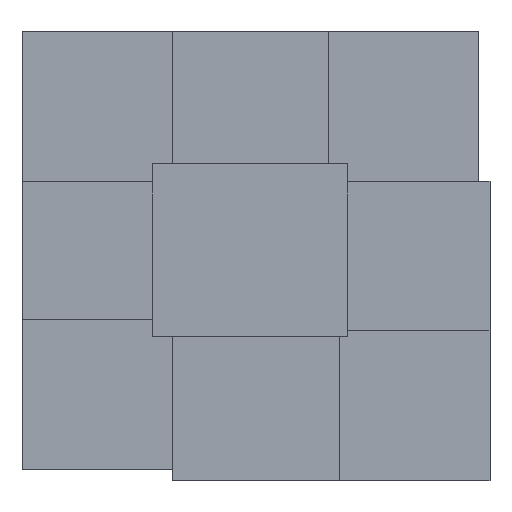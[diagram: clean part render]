
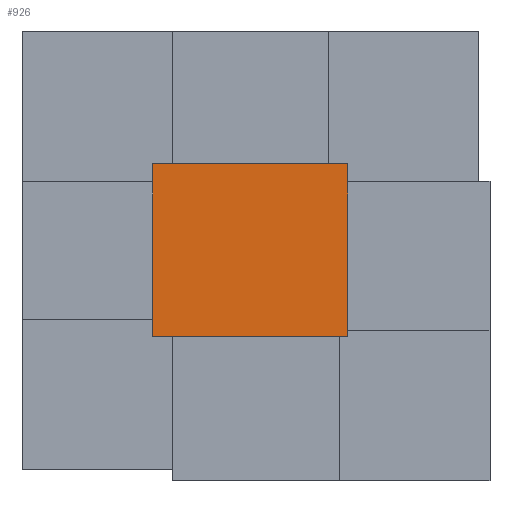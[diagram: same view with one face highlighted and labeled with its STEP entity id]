
A CAD part, left-side view. The second image highlights one B-rep face of the part: STEP entity #926.
In plain terms, the highlighted planar face has unit normal (-1, 0, 0).
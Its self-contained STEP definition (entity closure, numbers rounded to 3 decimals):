
#808=CARTESIAN_POINT('Line Origine',(0.,0.,57.5)) ;
#812=CARTESIAN_POINT('Vertex',(0.,0.,0.)) ;
#814=CARTESIAN_POINT('Vertex',(0.,0.,115.)) ;
#883=CARTESIAN_POINT('Vertex',(0.,130.,0.)) ;
#886=CARTESIAN_POINT('Line Origine',(0.,130.,57.5)) ;
#890=CARTESIAN_POINT('Vertex',(0.,130.,115.)) ;
#905=CARTESIAN_POINT('Axis2P3D Location',(0.,130.,0.)) ;
#910=CARTESIAN_POINT('Line Origine',(0.,65.,0.)) ;
#915=CARTESIAN_POINT('Line Origine',(0.,65.,115.)) ;
#809=DIRECTION('Vector Direction',(0.,0.,1.)) ;
#887=DIRECTION('Vector Direction',(0.,0.,1.)) ;
#906=DIRECTION('Axis2P3D Direction',(-1.,0.,0.)) ;
#907=DIRECTION('Axis2P3D XDirection',(0.,-1.,0.)) ;
#911=DIRECTION('Vector Direction',(0.,-1.,0.)) ;
#916=DIRECTION('Vector Direction',(0.,-1.,0.)) ;
#908=AXIS2_PLACEMENT_3D('Plane Axis2P3D',#905,#906,#907) ;
#921=ORIENTED_EDGE('',*,*,#892,.F.) ;
#922=ORIENTED_EDGE('',*,*,#914,.T.) ;
#923=ORIENTED_EDGE('',*,*,#816,.T.) ;
#924=ORIENTED_EDGE('',*,*,#919,.F.) ;
#810=VECTOR('Line Direction',#809,1.) ;
#888=VECTOR('Line Direction',#887,1.) ;
#912=VECTOR('Line Direction',#911,1.) ;
#917=VECTOR('Line Direction',#916,1.) ;
#926=ADVANCED_FACE('Body.2-molde-superior',(#925),#909,.T.) ;
#816=EDGE_CURVE('',#813,#815,#811,.T.) ;
#892=EDGE_CURVE('',#884,#891,#889,.T.) ;
#914=EDGE_CURVE('',#884,#813,#913,.T.) ;
#919=EDGE_CURVE('',#891,#815,#918,.T.) ;
#920=EDGE_LOOP('',(#921,#922,#923,#924)) ;
#925=FACE_OUTER_BOUND('',#920,.T.) ;
#811=LINE('Line',#808,#810) ;
#889=LINE('Line',#886,#888) ;
#913=LINE('Line',#910,#912) ;
#918=LINE('Line',#915,#917) ;
#909=PLANE('',#908) ;
#813=VERTEX_POINT('',#812) ;
#815=VERTEX_POINT('',#814) ;
#884=VERTEX_POINT('',#883) ;
#891=VERTEX_POINT('',#890) ;
